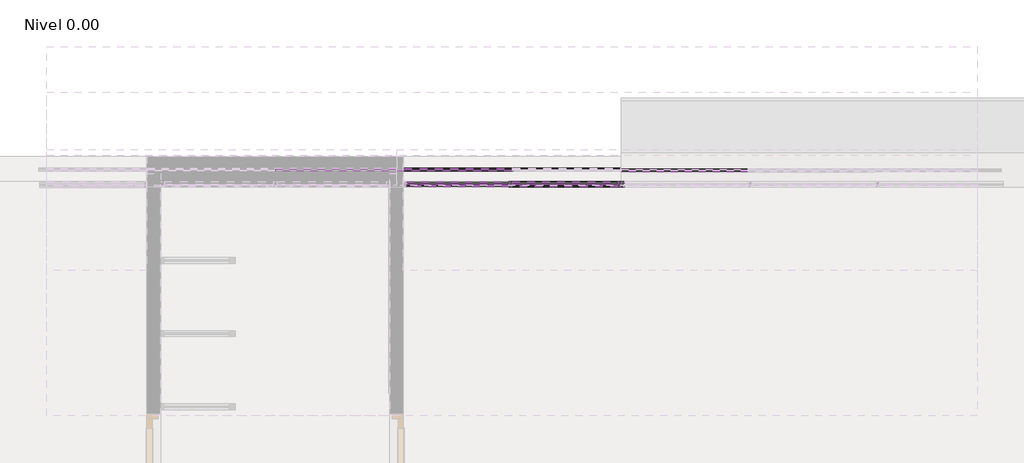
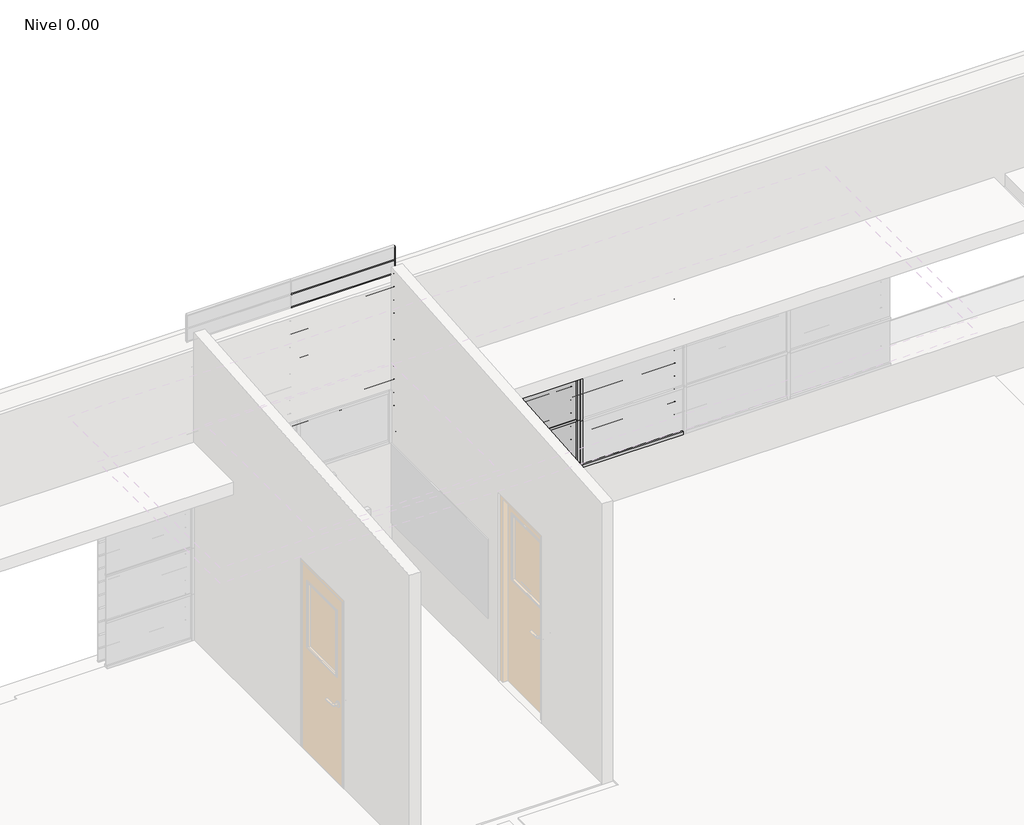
# One storey, part 16 of 27: 106 members, 28 plates.
"""IFC4 building model written with IfcOpenShell, lengths in millimetres."""

from ifc_helpers import new_model, si_unit, origin, place, context, project, spatial, transform, mapped, element, save
from components import circular_mullion_1dead5a5, circular_mullion_f540d6b4, circular_mullion_e1cfff8a, l_corner_mullion_285056ba, l_corner_mullion_de296168, rectangular_mullion_795f11c4, rectangular_mullion_4771c1cd, rectangular_mullion_fd73bc33, rectangular_mullion_435ed243, rectangular_mullion_cf28ff6b, rectangular_mullion_62a8ddbd, rectangular_mullion_f7ba8490, rectangular_mullion_80493510, rectangular_mullion_4732226b, rectangular_mullion_bccfeea3, rectangular_mullion_9fa35bb9, system_panel_7fb71679, system_panel_d60c91ae, system_panel_glazed_fd2ea701, system_panel_glazed_917149f2, system_panel_glazed_dea605e0, system_panel_glazed_2402f51b

model = new_model("IFC4")

# Units and contexts
model_context = context("Model", 3, world=origin())
ifc_project = project(units=[si_unit("LENGTHUNIT", "METRE", prefix="MILLI")], contexts=[model_context])

# Site, building, storey
site = spatial("IfcSite", under=ifc_project)
building = spatial("IfcBuilding", under=site)
storey = spatial("IfcBuildingStorey", under=building, Name="Nivel 0.00", Elevation=0.0)

# Members
placement = place(None, origin())
circular_mullion_shape = circular_mullion_1dead5a5(model_context)
element("IfcMember", 1, ObjectType="Circular Mullion : ARQ_HERR_16mm", at=placement, inside=storey, context=model_context, shape_type="MappedRepresentation", body=[
    mapped(circular_mullion_shape, transform((-7221.5692731, 6959.43912, 1650.0), x_axis=(0.0, 0.0, 1.0), y_axis=(0.0, -1.0, 0.0), z_axis=(1.0, 0.0, 0.0))),
])
element("IfcMember", 2, ObjectType="Circular Mullion : ARQ_HERR_16mm", at=placement, inside=storey, context=model_context, shape_type="MappedRepresentation", body=[
    mapped(circular_mullion_shape, transform((-7221.5692731, 6959.43912, 1800.0), x_axis=(0.0, 0.0, 1.0), y_axis=(0.0, -1.0, 0.0), z_axis=(1.0, 0.0, 0.0))),
])
element("IfcMember", 3, ObjectType="Circular Mullion : ARQ_HERR_16mm", at=placement, inside=storey, context=model_context, shape_type="MappedRepresentation", body=[
    mapped(circular_mullion_shape, transform((-7221.5692731, 6959.43912, 1950.0), x_axis=(0.0, 0.0, 1.0), y_axis=(0.0, -1.0, 0.0), z_axis=(1.0, 0.0, 0.0))),
])
element("IfcMember", 4, ObjectType="Circular Mullion : ARQ_HERR_16mm", at=placement, inside=storey, context=model_context, shape_type="MappedRepresentation", body=[
    mapped(circular_mullion_shape, transform((-7221.5692731, 6959.43912, 2100.0), x_axis=(0.0, 0.0, 1.0), y_axis=(0.0, -1.0, 0.0), z_axis=(1.0, 0.0, 0.0))),
])
element("IfcMember", 5, ObjectType="Circular Mullion : ARQ_HERR_16mm", at=placement, inside=storey, context=model_context, shape_type="MappedRepresentation", body=[
    mapped(circular_mullion_shape, transform((-7221.5692731, 6959.43912, 2250.0), x_axis=(0.0, 0.0, 1.0), y_axis=(0.0, -1.0, 0.0), z_axis=(1.0, 0.0, 0.0))),
])
element("IfcMember", 6, ObjectType="Circular Mullion : ARQ_HERR_16mm", at=placement, inside=storey, context=model_context, shape_type="MappedRepresentation", body=[
    mapped(circular_mullion_shape, transform((-7221.5692731, 6959.43912, 2400.0), x_axis=(0.0, 0.0, 1.0), y_axis=(0.0, -1.0, 0.0), z_axis=(1.0, 0.0, 0.0))),
])
element("IfcMember", 7, ObjectType="Circular Mullion : ARQ_HERR_16mm", at=placement, inside=storey, context=model_context, shape_type="MappedRepresentation", body=[
    mapped(circular_mullion_shape, transform((-7221.5692731, 6959.43912, 2550.0), x_axis=(0.0, 0.0, 1.0), y_axis=(0.0, -1.0, 0.0), z_axis=(1.0, 0.0, 0.0))),
])
element("IfcMember", 8, ObjectType="Circular Mullion : ARQ_HERR_16mm", at=placement, inside=storey, context=model_context, shape_type="MappedRepresentation", body=[
    mapped(circular_mullion_shape, transform((-7221.5692731, 6959.43912, 2700.0), x_axis=(0.0, 0.0, 1.0), y_axis=(0.0, -1.0, 0.0), z_axis=(1.0, 0.0, 0.0))),
])
element("IfcMember", 9, ObjectType="Circular Mullion : ARQ_HERR_16mm", at=placement, inside=storey, context=model_context, shape_type="MappedRepresentation", body=[
    mapped(circular_mullion_shape, transform((-7221.5692731, 6959.43912, 2850.0), x_axis=(0.0, 0.0, 1.0), y_axis=(0.0, -1.0, 0.0), z_axis=(1.0, 0.0, 0.0))),
])
element("IfcMember", 10, ObjectType="Circular Mullion : ARQ_HERR_16mm", at=placement, inside=storey, context=model_context, shape_type="MappedRepresentation", body=[
    mapped(circular_mullion_shape, transform((-7221.5692731, 6959.43912, 3000.0), x_axis=(0.0, 0.0, 1.0), y_axis=(0.0, -1.0, 0.0), z_axis=(1.0, 0.0, 0.0))),
])
element("IfcMember", 11, ObjectType="Circular Mullion : ARQ_HERR_16mm", at=placement, inside=storey, context=model_context, shape_type="MappedRepresentation", body=[
    mapped(circular_mullion_shape, transform((-7221.5692731, 6959.43912, 3150.0), x_axis=(0.0, 0.0, 1.0), y_axis=(0.0, -1.0, 0.0), z_axis=(1.0, 0.0, 0.0))),
])
element("IfcMember", 12, ObjectType="Circular Mullion : ARQ_HERR_16mm", at=placement, inside=storey, context=model_context, shape_type="MappedRepresentation", body=[
    mapped(circular_mullion_shape, transform((-7221.5692731, 6959.43912, 3300.0), x_axis=(0.0, 0.0, 1.0), y_axis=(0.0, -1.0, 0.0), z_axis=(1.0, 0.0, 0.0))),
])
element("IfcMember", 13, ObjectType="Circular Mullion : ARQ_HERR_16mm", at=placement, inside=storey, context=model_context, shape_type="MappedRepresentation", body=[
    mapped(circular_mullion_shape, transform((-7221.5692731, 6959.43912, 3450.0), x_axis=(0.0, 0.0, 1.0), y_axis=(0.0, -1.0, 0.0), z_axis=(1.0, 0.0, 0.0))),
])
circular_mullion_2_shape = circular_mullion_f540d6b4(model_context)
element("IfcMember", 14, ObjectType="Circular Mullion : ARQ_HERR_16mm", at=placement, inside=storey, context=model_context, shape_type="MappedRepresentation", body=[
    mapped(circular_mullion_2_shape, transform((-5309.2830591, 6959.4278548, 645.4545455), x_axis=(0.0, 0.0, 1.0), y_axis=(0.0, 1.0, 0.0), z_axis=(-1.0, 0.0, 0.0))),
])
element("IfcMember", 15, ObjectType="Circular Mullion : ARQ_HERR_16mm", at=placement, inside=storey, context=model_context, shape_type="MappedRepresentation", body=[
    mapped(circular_mullion_2_shape, transform((-5309.2830591, 6959.4278548, 790.9090909), x_axis=(0.0, 0.0, 1.0), y_axis=(0.0, 1.0, 0.0), z_axis=(-1.0, 0.0, 0.0))),
])
element("IfcMember", 16, ObjectType="Circular Mullion : ARQ_HERR_16mm", at=placement, inside=storey, context=model_context, shape_type="MappedRepresentation", body=[
    mapped(circular_mullion_2_shape, transform((-5309.2830591, 6959.4278548, 936.3636364), x_axis=(0.0, 0.0, 1.0), y_axis=(0.0, 1.0, 0.0), z_axis=(-1.0, 0.0, 0.0))),
])
element("IfcMember", 17, ObjectType="Circular Mullion : ARQ_HERR_16mm", at=placement, inside=storey, context=model_context, shape_type="MappedRepresentation", body=[
    mapped(circular_mullion_2_shape, transform((-5309.2830591, 6959.4278548, 1081.8181818), x_axis=(0.0, 0.0, 1.0), y_axis=(0.0, 1.0, 0.0), z_axis=(-1.0, 0.0, 0.0))),
])
element("IfcMember", 18, ObjectType="Circular Mullion : ARQ_HERR_16mm", at=placement, inside=storey, context=model_context, shape_type="MappedRepresentation", body=[
    mapped(circular_mullion_2_shape, transform((-5309.2830591, 6959.4278548, 1227.2727273), x_axis=(0.0, 0.0, 1.0), y_axis=(0.0, 1.0, 0.0), z_axis=(-1.0, 0.0, 0.0))),
])
element("IfcMember", 19, ObjectType="Circular Mullion : ARQ_HERR_16mm", at=placement, inside=storey, context=model_context, shape_type="MappedRepresentation", body=[
    mapped(circular_mullion_2_shape, transform((-5309.2830591, 6959.4278548, 1372.7272727), x_axis=(0.0, 0.0, 1.0), y_axis=(0.0, 1.0, 0.0), z_axis=(-1.0, 0.0, 0.0))),
])
element("IfcMember", 20, ObjectType="Circular Mullion : ARQ_HERR_16mm", at=placement, inside=storey, context=model_context, shape_type="MappedRepresentation", body=[
    mapped(circular_mullion_2_shape, transform((-5309.2830591, 6959.4278548, 1518.1818182), x_axis=(0.0, 0.0, 1.0), y_axis=(0.0, 1.0, 0.0), z_axis=(-1.0, 0.0, 0.0))),
])
element("IfcMember", 21, ObjectType="Circular Mullion : ARQ_HERR_16mm", at=placement, inside=storey, context=model_context, shape_type="MappedRepresentation", body=[
    mapped(circular_mullion_2_shape, transform((-5309.2830591, 6959.4278548, 1663.6363636), x_axis=(0.0, 0.0, 1.0), y_axis=(0.0, 1.0, 0.0), z_axis=(-1.0, 0.0, 0.0))),
])
element("IfcMember", 22, ObjectType="Circular Mullion : ARQ_HERR_16mm", at=placement, inside=storey, context=model_context, shape_type="MappedRepresentation", body=[
    mapped(circular_mullion_2_shape, transform((-5309.2830591, 6959.4278548, 1809.0909091), x_axis=(0.0, 0.0, 1.0), y_axis=(0.0, 1.0, 0.0), z_axis=(-1.0, 0.0, 0.0))),
])
element("IfcMember", 23, ObjectType="Circular Mullion : ARQ_HERR_16mm", at=placement, inside=storey, context=model_context, shape_type="MappedRepresentation", body=[
    mapped(circular_mullion_2_shape, transform((-5309.2830591, 6959.4278548, 1954.5454545), x_axis=(0.0, 0.0, 1.0), y_axis=(0.0, 1.0, 0.0), z_axis=(-1.0, 0.0, 0.0))),
])
circular_mullion_3_shape = circular_mullion_e1cfff8a(model_context)
element("IfcMember", 24, ObjectType="Circular Mullion : ARQ_HERR_16mm", at=placement, inside=storey, context=model_context, shape_type="MappedRepresentation", body=[
    mapped(circular_mullion_3_shape, transform((-6268.2830108, 6959.43912, 150.0), x_axis=(0.0, 0.0, 1.0), y_axis=(0.0, -1.0, 0.0), z_axis=(1.0, 0.0, 0.0))),
])
element("IfcMember", 25, ObjectType="Circular Mullion : ARQ_HERR_16mm", at=placement, inside=storey, context=model_context, shape_type="MappedRepresentation", body=[
    mapped(circular_mullion_3_shape, transform((-6268.2830108, 6959.43912, 300.0), x_axis=(0.0, 0.0, 1.0), y_axis=(0.0, -1.0, 0.0), z_axis=(1.0, 0.0, 0.0))),
])
element("IfcMember", 26, ObjectType="Circular Mullion : ARQ_HERR_16mm", at=placement, inside=storey, context=model_context, shape_type="MappedRepresentation", body=[
    mapped(circular_mullion_3_shape, transform((-6268.2830108, 6959.43912, 450.0), x_axis=(0.0, 0.0, 1.0), y_axis=(0.0, -1.0, 0.0), z_axis=(1.0, 0.0, 0.0))),
])
element("IfcMember", 27, ObjectType="Circular Mullion : ARQ_HERR_16mm", at=placement, inside=storey, context=model_context, shape_type="MappedRepresentation", body=[
    mapped(circular_mullion_3_shape, transform((-6268.2830108, 6959.43912, 600.0), x_axis=(0.0, 0.0, 1.0), y_axis=(0.0, -1.0, 0.0), z_axis=(1.0, 0.0, 0.0))),
])
element("IfcMember", 28, ObjectType="Circular Mullion : ARQ_HERR_16mm", at=placement, inside=storey, context=model_context, shape_type="MappedRepresentation", body=[
    mapped(circular_mullion_3_shape, transform((-6268.2830108, 6959.43912, 750.0), x_axis=(0.0, 0.0, 1.0), y_axis=(0.0, -1.0, 0.0), z_axis=(1.0, 0.0, 0.0))),
])
element("IfcMember", 29, ObjectType="Circular Mullion : ARQ_HERR_16mm", at=placement, inside=storey, context=model_context, shape_type="MappedRepresentation", body=[
    mapped(circular_mullion_3_shape, transform((-6268.2830108, 6959.43912, 900.0), x_axis=(0.0, 0.0, 1.0), y_axis=(0.0, -1.0, 0.0), z_axis=(1.0, 0.0, 0.0))),
])
element("IfcMember", 30, ObjectType="Circular Mullion : ARQ_HERR_16mm", at=placement, inside=storey, context=model_context, shape_type="MappedRepresentation", body=[
    mapped(circular_mullion_3_shape, transform((-6268.2830108, 6959.43912, 1050.0), x_axis=(0.0, 0.0, 1.0), y_axis=(0.0, -1.0, 0.0), z_axis=(1.0, 0.0, 0.0))),
])
element("IfcMember", 31, ObjectType="Circular Mullion : ARQ_HERR_16mm", at=placement, inside=storey, context=model_context, shape_type="MappedRepresentation", body=[
    mapped(circular_mullion_3_shape, transform((-6268.2830108, 6959.43912, 1200.0), x_axis=(0.0, 0.0, 1.0), y_axis=(0.0, -1.0, 0.0), z_axis=(1.0, 0.0, 0.0))),
])
element("IfcMember", 32, ObjectType="Circular Mullion : ARQ_HERR_16mm", at=placement, inside=storey, context=model_context, shape_type="MappedRepresentation", body=[
    mapped(circular_mullion_3_shape, transform((-6268.2830108, 6959.43912, 1350.0), x_axis=(0.0, 0.0, 1.0), y_axis=(0.0, -1.0, 0.0), z_axis=(1.0, 0.0, 0.0))),
])
element("IfcMember", 33, ObjectType="Circular Mullion : ARQ_HERR_16mm", at=placement, inside=storey, context=model_context, shape_type="MappedRepresentation", body=[
    mapped(circular_mullion_3_shape, transform((-6268.2830108, 6959.43912, 1500.0), x_axis=(0.0, 0.0, 1.0), y_axis=(0.0, -1.0, 0.0), z_axis=(1.0, 0.0, 0.0))),
])
element("IfcMember", 34, ObjectType="Circular Mullion : ARQ_HERR_16mm", at=placement, inside=storey, context=model_context, shape_type="MappedRepresentation", body=[
    mapped(circular_mullion_3_shape, transform((-6268.2830108, 6959.43912, 1650.0), x_axis=(0.0, 0.0, 1.0), y_axis=(0.0, -1.0, 0.0), z_axis=(1.0, 0.0, 0.0))),
])
element("IfcMember", 35, ObjectType="Circular Mullion : ARQ_HERR_16mm", at=placement, inside=storey, context=model_context, shape_type="MappedRepresentation", body=[
    mapped(circular_mullion_3_shape, transform((-6268.2830108, 6959.43912, 1800.0), x_axis=(0.0, 0.0, 1.0), y_axis=(0.0, -1.0, 0.0), z_axis=(1.0, 0.0, 0.0))),
])
element("IfcMember", 36, ObjectType="Circular Mullion : ARQ_HERR_16mm", at=placement, inside=storey, context=model_context, shape_type="MappedRepresentation", body=[
    mapped(circular_mullion_3_shape, transform((-6268.2830108, 6959.43912, 1950.0), x_axis=(0.0, 0.0, 1.0), y_axis=(0.0, -1.0, 0.0), z_axis=(1.0, 0.0, 0.0))),
])
l_corner_mullion_shape = l_corner_mullion_285056ba(model_context)
element("IfcMember", 37, ObjectType="L Corner Mullion : ARQ_HERR_15X6mm", at=placement, inside=storey, context=model_context, shape_type="MappedRepresentation", body=[
    mapped(l_corner_mullion_shape, transform((-5309.2830591, 6959.4278548, 2100.0), x_axis=(0.0, 0.0, 1.0), y_axis=(0.0, 1.0, 0.0), z_axis=(-1.0, 0.0, 0.0))),
])
l_corner_mullion_2_shape = l_corner_mullion_de296168(model_context)
element("IfcMember", 38, ObjectType="L Corner Mullion : ARQ_HERR_15X6mm", at=placement, inside=storey, context=model_context, shape_type="MappedRepresentation", body=[
    mapped(l_corner_mullion_2_shape, transform((-6268.2830108, 6959.43912, 2100.0), x_axis=(0.0, 0.0, 1.0), y_axis=(0.0, -1.0, 0.0), z_axis=(1.0, 0.0, 0.0))),
])
element("IfcMember", 39, ObjectType="L Corner Mullion : ARQ_HERR_15X6mm", at=placement, inside=storey, context=model_context, shape_type="MappedRepresentation", body=[
    mapped(l_corner_mullion_2_shape, transform((-7209.2388409, 6959.43912, 0.0), x_axis=(0.0, 0.0, -1.0), y_axis=(0.0, -1.0, 0.0), z_axis=(-1.0, 0.0, 0.0))),
])
element("IfcMember", 40, ObjectType="L Corner Mullion : ARQ_HERR_15X6mm", at=placement, inside=storey, context=model_context, shape_type="MappedRepresentation", body=[
    mapped(l_corner_mullion_2_shape, transform((-6262.2830108, 6959.43912, 0.0), x_axis=(0.0, 0.0, -1.0), y_axis=(0.0, -1.0, 0.0), z_axis=(-1.0, 0.0, 0.0))),
])
rectangular_mullion_shape = rectangular_mullion_795f11c4(model_context)
element("IfcMember", 41, ObjectType="Rectangular Mullion : ARQ_TV_MULL_50x30mm", at=placement, inside=storey, context=model_context, shape_type="MappedRepresentation", body=[
    mapped(rectangular_mullion_shape, transform((-5345.2830591, 6834.439065, 2100.0), x_axis=(0.0, 0.0, 1.0), y_axis=(0.0, -1.0, 0.0), z_axis=(1.0, 0.0, 0.0))),
])
rectangular_mullion_2_shape = rectangular_mullion_4771c1cd(model_context)
element("IfcMember", 42, ObjectType="Rectangular Mullion : ARQ_TV_MULL_50x30mm", at=placement, inside=storey, context=model_context, shape_type="MappedRepresentation", body=[
    mapped(rectangular_mullion_2_shape, transform((-6295.4261661, 6834.439065, 2100.0), x_axis=(0.0, 0.0, 1.0), y_axis=(0.0, -1.0, 0.0), z_axis=(1.0, 0.0, 0.0))),
])
element("IfcMember", 43, ObjectType="Rectangular Mullion : ARQ_TV_MULL_50x30mm", at=placement, inside=storey, context=model_context, shape_type="MappedRepresentation", body=[
    mapped(rectangular_mullion_shape, transform((-6265.4261661, 6834.439065, 0.0), x_axis=(0.0, 0.0, -1.0), y_axis=(0.0, -1.0, 0.0), z_axis=(-1.0, 0.0, 0.0))),
])
rectangular_mullion_3_shape = rectangular_mullion_fd73bc33(model_context)
element("IfcMember", 44, ObjectType="Rectangular Mullion : ARQ_TV_MULL_50x30mm", at=placement, inside=storey, context=model_context, shape_type="MappedRepresentation", body=[
    mapped(rectangular_mullion_3_shape, transform((-6280.4261661, 6834.439065, 0.0), x_axis=(1.0, 0.0, 0.0), y_axis=(0.0, -1.0, 0.0), z_axis=(0.0, 0.0, -1.0))),
])
element("IfcMember", 45, ObjectType="Rectangular Mullion : ARQ_TV_MULL_50x30mm", at=placement, inside=storey, context=model_context, shape_type="MappedRepresentation", body=[
    mapped(rectangular_mullion_3_shape, transform((-6280.4261661, 6834.439065, 525.0), x_axis=(1.0, 0.0, 0.0), y_axis=(0.0, -1.0, 0.0), z_axis=(0.0, 0.0, -1.0))),
])
element("IfcMember", 46, ObjectType="Rectangular Mullion : ARQ_TV_MULL_50x30mm", at=placement, inside=storey, context=model_context, shape_type="MappedRepresentation", body=[
    mapped(rectangular_mullion_3_shape, transform((-6280.4261661, 6834.439065, 1050.0), x_axis=(1.0, 0.0, 0.0), y_axis=(0.0, -1.0, 0.0), z_axis=(0.0, 0.0, -1.0))),
])
element("IfcMember", 47, ObjectType="Rectangular Mullion : ARQ_TV_MULL_50x30mm", at=placement, inside=storey, context=model_context, shape_type="MappedRepresentation", body=[
    mapped(rectangular_mullion_3_shape, transform((-6280.4261661, 6834.439065, 1575.0), x_axis=(1.0, 0.0, 0.0), y_axis=(0.0, -1.0, 0.0), z_axis=(0.0, 0.0, -1.0))),
])
rectangular_mullion_4_shape = rectangular_mullion_435ed243(model_context)
element("IfcMember", 48, ObjectType="Rectangular Mullion : ARQ_TV_MULL_30x20mm", at=placement, inside=storey, context=model_context, shape_type="MappedRepresentation", body=[
    mapped(rectangular_mullion_4_shape, transform((-6295.4261661, 6834.439065, 525.0), x_axis=(0.0, 0.0, 1.0), y_axis=(0.0, -1.0, 0.0), z_axis=(1.0, 0.0, 0.0))),
])
element("IfcMember", 49, ObjectType="Rectangular Mullion : ARQ_TV_MULL_30x20mm", at=placement, inside=storey, context=model_context, shape_type="MappedRepresentation", body=[
    mapped(rectangular_mullion_4_shape, transform((-6295.4261661, 6834.439065, 1050.0), x_axis=(0.0, 0.0, 1.0), y_axis=(0.0, -1.0, 0.0), z_axis=(1.0, 0.0, 0.0))),
])
element("IfcMember", 50, ObjectType="Rectangular Mullion : ARQ_TV_MULL_30x20mm", at=placement, inside=storey, context=model_context, shape_type="MappedRepresentation", body=[
    mapped(rectangular_mullion_4_shape, transform((-6295.4261661, 6834.439065, 1575.0), x_axis=(0.0, 0.0, 1.0), y_axis=(0.0, -1.0, 0.0), z_axis=(1.0, 0.0, 0.0))),
])
rectangular_mullion_5_shape = rectangular_mullion_cf28ff6b(model_context)
element("IfcMember", 51, ObjectType="Rectangular Mullion : ARQ_TV_MULL_30x20mm", at=placement, inside=storey, context=model_context, shape_type="MappedRepresentation", body=[
    mapped(rectangular_mullion_5_shape, transform((-5345.2830591, 6834.439065, 525.0), x_axis=(0.0, 0.0, 1.0), y_axis=(0.0, -1.0, 0.0), z_axis=(1.0, 0.0, 0.0))),
])
element("IfcMember", 52, ObjectType="Rectangular Mullion : ARQ_TV_MULL_30x20mm", at=placement, inside=storey, context=model_context, shape_type="MappedRepresentation", body=[
    mapped(rectangular_mullion_5_shape, transform((-5345.2830591, 6834.439065, 1050.0), x_axis=(0.0, 0.0, 1.0), y_axis=(0.0, -1.0, 0.0), z_axis=(1.0, 0.0, 0.0))),
])
element("IfcMember", 53, ObjectType="Rectangular Mullion : ARQ_TV_MULL_30x20mm", at=placement, inside=storey, context=model_context, shape_type="MappedRepresentation", body=[
    mapped(rectangular_mullion_5_shape, transform((-5345.2830591, 6834.439065, 1575.0), x_axis=(0.0, 0.0, 1.0), y_axis=(0.0, -1.0, 0.0), z_axis=(1.0, 0.0, 0.0))),
])
rectangular_mullion_6_shape = rectangular_mullion_62a8ddbd(model_context)
element("IfcMember", 54, ObjectType="Rectangular Mullion : ARQ_TV_MULL_50x30mm", at=placement, inside=storey, context=model_context, shape_type="MappedRepresentation", body=[
    mapped(rectangular_mullion_6_shape, transform((-5315.2830591, 6834.439065, 0.0), x_axis=(1.0, 0.0, 0.0), y_axis=(0.0, -1.0, 0.0), z_axis=(0.0, 0.0, -1.0))),
])
element("IfcMember", 55, ObjectType="Rectangular Mullion : ARQ_TV_MULL_50x30mm", at=placement, inside=storey, context=model_context, shape_type="MappedRepresentation", body=[
    mapped(rectangular_mullion_6_shape, transform((-5315.2830591, 6834.439065, 525.0), x_axis=(1.0, 0.0, 0.0), y_axis=(0.0, -1.0, 0.0), z_axis=(0.0, 0.0, -1.0))),
])
element("IfcMember", 56, ObjectType="Rectangular Mullion : ARQ_TV_MULL_50x30mm", at=placement, inside=storey, context=model_context, shape_type="MappedRepresentation", body=[
    mapped(rectangular_mullion_6_shape, transform((-5315.2830591, 6834.439065, 1050.0), x_axis=(1.0, 0.0, 0.0), y_axis=(0.0, -1.0, 0.0), z_axis=(0.0, 0.0, -1.0))),
])
element("IfcMember", 57, ObjectType="Rectangular Mullion : ARQ_TV_MULL_50x30mm", at=placement, inside=storey, context=model_context, shape_type="MappedRepresentation", body=[
    mapped(rectangular_mullion_6_shape, transform((-5315.2830591, 6834.439065, 1575.0), x_axis=(1.0, 0.0, 0.0), y_axis=(0.0, -1.0, 0.0), z_axis=(0.0, 0.0, -1.0))),
])
rectangular_mullion_7_shape = rectangular_mullion_f7ba8490(model_context)
element("IfcMember", 58, ObjectType="Rectangular Mullion : ARQ_TV_MULL_50x30mm", at=placement, inside=storey, context=model_context, shape_type="MappedRepresentation", body=[
    mapped(rectangular_mullion_7_shape, transform((-5315.2830591, 6834.439065, 2100.0), x_axis=(-1.0, 0.0, 0.0), y_axis=(0.0, -1.0, 0.0), z_axis=(0.0, 0.0, 1.0))),
])
element("IfcMember", 59, ObjectType="Rectangular Mullion : ARQ_TV_MULL_50x30mm", at=placement, inside=storey, context=model_context, shape_type="MappedRepresentation", body=[
    mapped(rectangular_mullion_7_shape, transform((-5315.2830591, 6834.439065, 1033.3333333), x_axis=(-1.0, 0.0, 0.0), y_axis=(0.0, -1.0, 0.0), z_axis=(0.0, 0.0, 1.0))),
])
element("IfcMember", 60, ObjectType="Rectangular Mullion : ARQ_TV_MULL_50x30mm", at=placement, inside=storey, context=model_context, shape_type="MappedRepresentation", body=[
    mapped(rectangular_mullion_7_shape, transform((-5315.2830591, 6834.439065, 1566.6666667), x_axis=(-1.0, 0.0, 0.0), y_axis=(0.0, -1.0, 0.0), z_axis=(0.0, 0.0, 1.0))),
])
rectangular_mullion_8_shape = rectangular_mullion_80493510(model_context)
element("IfcMember", 61, ObjectType="Rectangular Mullion : ARQ_TV_MULL_50x30mm", at=placement, inside=storey, context=model_context, shape_type="MappedRepresentation", body=[
    mapped(rectangular_mullion_8_shape, transform((-5285.2830591, 6834.439065, 500.0), x_axis=(0.0, 0.0, -1.0), y_axis=(0.0, -1.0, 0.0), z_axis=(-1.0, 0.0, 0.0))),
])
rectangular_mullion_9_shape = rectangular_mullion_4732226b(model_context)
element("IfcMember", 62, ObjectType="Rectangular Mullion : ARQ_HERR_15X6mm", at=placement, inside=storey, context=model_context, shape_type="MappedRepresentation", body=[
    mapped(rectangular_mullion_9_shape, transform((-6265.2830108, 6959.43912, 0.0), x_axis=(1.0, 0.0, 0.0), y_axis=(0.0, -1.0, 0.0), z_axis=(0.0, 0.0, -1.0))),
])
element("IfcMember", 63, ObjectType="Rectangular Mullion : ARQ_HERR_15X6mm", at=placement, inside=storey, context=model_context, shape_type="MappedRepresentation", body=[
    mapped(rectangular_mullion_9_shape, transform((-6265.2830108, 6959.43912, 150.0), x_axis=(1.0, 0.0, 0.0), y_axis=(0.0, -1.0, 0.0), z_axis=(0.0, 0.0, -1.0))),
])
element("IfcMember", 64, ObjectType="Rectangular Mullion : ARQ_HERR_15X6mm", at=placement, inside=storey, context=model_context, shape_type="MappedRepresentation", body=[
    mapped(rectangular_mullion_9_shape, transform((-6265.2830108, 6959.43912, 300.0), x_axis=(1.0, 0.0, 0.0), y_axis=(0.0, -1.0, 0.0), z_axis=(0.0, 0.0, -1.0))),
])
element("IfcMember", 65, ObjectType="Rectangular Mullion : ARQ_HERR_15X6mm", at=placement, inside=storey, context=model_context, shape_type="MappedRepresentation", body=[
    mapped(rectangular_mullion_9_shape, transform((-6265.2830108, 6959.43912, 450.0), x_axis=(1.0, 0.0, 0.0), y_axis=(0.0, -1.0, 0.0), z_axis=(0.0, 0.0, -1.0))),
])
element("IfcMember", 66, ObjectType="Rectangular Mullion : ARQ_HERR_15X6mm", at=placement, inside=storey, context=model_context, shape_type="MappedRepresentation", body=[
    mapped(rectangular_mullion_9_shape, transform((-6265.2830108, 6959.43912, 600.0), x_axis=(1.0, 0.0, 0.0), y_axis=(0.0, -1.0, 0.0), z_axis=(0.0, 0.0, -1.0))),
])
element("IfcMember", 67, ObjectType="Rectangular Mullion : ARQ_HERR_15X6mm", at=placement, inside=storey, context=model_context, shape_type="MappedRepresentation", body=[
    mapped(rectangular_mullion_9_shape, transform((-6265.2830108, 6959.43912, 750.0), x_axis=(1.0, 0.0, 0.0), y_axis=(0.0, -1.0, 0.0), z_axis=(0.0, 0.0, -1.0))),
])
element("IfcMember", 68, ObjectType="Rectangular Mullion : ARQ_HERR_15X6mm", at=placement, inside=storey, context=model_context, shape_type="MappedRepresentation", body=[
    mapped(rectangular_mullion_9_shape, transform((-6265.2830108, 6959.43912, 900.0), x_axis=(1.0, 0.0, 0.0), y_axis=(0.0, -1.0, 0.0), z_axis=(0.0, 0.0, -1.0))),
])
element("IfcMember", 69, ObjectType="Rectangular Mullion : ARQ_HERR_15X6mm", at=placement, inside=storey, context=model_context, shape_type="MappedRepresentation", body=[
    mapped(rectangular_mullion_9_shape, transform((-6265.2830108, 6959.43912, 1050.0), x_axis=(1.0, 0.0, 0.0), y_axis=(0.0, -1.0, 0.0), z_axis=(0.0, 0.0, -1.0))),
])
element("IfcMember", 70, ObjectType="Rectangular Mullion : ARQ_HERR_15X6mm", at=placement, inside=storey, context=model_context, shape_type="MappedRepresentation", body=[
    mapped(rectangular_mullion_9_shape, transform((-6265.2830108, 6959.43912, 1200.0), x_axis=(1.0, 0.0, 0.0), y_axis=(0.0, -1.0, 0.0), z_axis=(0.0, 0.0, -1.0))),
])
element("IfcMember", 71, ObjectType="Rectangular Mullion : ARQ_HERR_15X6mm", at=placement, inside=storey, context=model_context, shape_type="MappedRepresentation", body=[
    mapped(rectangular_mullion_9_shape, transform((-6265.2830108, 6959.43912, 1350.0), x_axis=(1.0, 0.0, 0.0), y_axis=(0.0, -1.0, 0.0), z_axis=(0.0, 0.0, -1.0))),
])
element("IfcMember", 72, ObjectType="Rectangular Mullion : ARQ_HERR_15X6mm", at=placement, inside=storey, context=model_context, shape_type="MappedRepresentation", body=[
    mapped(rectangular_mullion_9_shape, transform((-6265.2830108, 6959.43912, 1500.0), x_axis=(1.0, 0.0, 0.0), y_axis=(0.0, -1.0, 0.0), z_axis=(0.0, 0.0, -1.0))),
])
element("IfcMember", 73, ObjectType="Rectangular Mullion : ARQ_HERR_15X6mm", at=placement, inside=storey, context=model_context, shape_type="MappedRepresentation", body=[
    mapped(rectangular_mullion_9_shape, transform((-6265.2830108, 6959.43912, 1650.0), x_axis=(1.0, 0.0, 0.0), y_axis=(0.0, -1.0, 0.0), z_axis=(0.0, 0.0, -1.0))),
])
element("IfcMember", 74, ObjectType="Rectangular Mullion : ARQ_HERR_15X6mm", at=placement, inside=storey, context=model_context, shape_type="MappedRepresentation", body=[
    mapped(rectangular_mullion_9_shape, transform((-6265.2830108, 6959.43912, 1800.0), x_axis=(1.0, 0.0, 0.0), y_axis=(0.0, -1.0, 0.0), z_axis=(0.0, 0.0, -1.0))),
])
rectangular_mullion_10_shape = rectangular_mullion_bccfeea3(model_context)
element("IfcMember", 75, ObjectType="Rectangular Mullion : ARQ_HERR_15X6mm", at=placement, inside=storey, context=model_context, shape_type="MappedRepresentation", body=[
    mapped(rectangular_mullion_10_shape, transform((-7215.5692731, 6959.43912, 2700.0), x_axis=(1.0, 0.0, 0.0), y_axis=(0.0, -1.0, 0.0), z_axis=(0.0, 0.0, -1.0))),
])
element("IfcMember", 76, ObjectType="Rectangular Mullion : ARQ_HERR_15X6mm", at=placement, inside=storey, context=model_context, shape_type="MappedRepresentation", body=[
    mapped(rectangular_mullion_10_shape, transform((-7215.5692731, 6959.43912, 2850.0), x_axis=(1.0, 0.0, 0.0), y_axis=(0.0, -1.0, 0.0), z_axis=(0.0, 0.0, -1.0))),
])
element("IfcMember", 77, ObjectType="Rectangular Mullion : ARQ_HERR_15X6mm", at=placement, inside=storey, context=model_context, shape_type="MappedRepresentation", body=[
    mapped(rectangular_mullion_10_shape, transform((-7215.5692731, 6959.43912, 3000.0), x_axis=(1.0, 0.0, 0.0), y_axis=(0.0, -1.0, 0.0), z_axis=(0.0, 0.0, -1.0))),
])
element("IfcMember", 78, ObjectType="Rectangular Mullion : ARQ_HERR_15X6mm", at=placement, inside=storey, context=model_context, shape_type="MappedRepresentation", body=[
    mapped(rectangular_mullion_10_shape, transform((-7215.5692731, 6959.43912, 3150.0), x_axis=(1.0, 0.0, 0.0), y_axis=(0.0, -1.0, 0.0), z_axis=(0.0, 0.0, -1.0))),
])
element("IfcMember", 79, ObjectType="Rectangular Mullion : ARQ_HERR_15X6mm", at=placement, inside=storey, context=model_context, shape_type="MappedRepresentation", body=[
    mapped(rectangular_mullion_10_shape, transform((-7215.5692731, 6959.43912, 3300.0), x_axis=(1.0, 0.0, 0.0), y_axis=(0.0, -1.0, 0.0), z_axis=(0.0, 0.0, -1.0))),
])
element("IfcMember", 80, ObjectType="Rectangular Mullion : ARQ_HERR_15X6mm", at=placement, inside=storey, context=model_context, shape_type="MappedRepresentation", body=[
    mapped(rectangular_mullion_10_shape, transform((-7215.2388409, 6959.43912, 150.0), x_axis=(-1.0, 0.0, 0.0), y_axis=(0.0, -1.0, 0.0), z_axis=(0.0, 0.0, 1.0))),
])
element("IfcMember", 81, ObjectType="Rectangular Mullion : ARQ_HERR_15X6mm", at=placement, inside=storey, context=model_context, shape_type="MappedRepresentation", body=[
    mapped(rectangular_mullion_10_shape, transform((-7215.2388409, 6959.43912, 300.0), x_axis=(-1.0, 0.0, 0.0), y_axis=(0.0, -1.0, 0.0), z_axis=(0.0, 0.0, 1.0))),
])
element("IfcMember", 82, ObjectType="Rectangular Mullion : ARQ_HERR_15X6mm", at=placement, inside=storey, context=model_context, shape_type="MappedRepresentation", body=[
    mapped(rectangular_mullion_10_shape, transform((-7215.2388409, 6959.43912, 450.0), x_axis=(-1.0, 0.0, 0.0), y_axis=(0.0, -1.0, 0.0), z_axis=(0.0, 0.0, 1.0))),
])
element("IfcMember", 83, ObjectType="Rectangular Mullion : ARQ_HERR_15X6mm", at=placement, inside=storey, context=model_context, shape_type="MappedRepresentation", body=[
    mapped(rectangular_mullion_10_shape, transform((-7215.2388409, 6959.43912, 600.0), x_axis=(-1.0, 0.0, 0.0), y_axis=(0.0, -1.0, 0.0), z_axis=(0.0, 0.0, 1.0))),
])
element("IfcMember", 84, ObjectType="Rectangular Mullion : ARQ_HERR_15X6mm", at=placement, inside=storey, context=model_context, shape_type="MappedRepresentation", body=[
    mapped(rectangular_mullion_10_shape, transform((-7215.2388409, 6959.43912, 750.0), x_axis=(-1.0, 0.0, 0.0), y_axis=(0.0, -1.0, 0.0), z_axis=(0.0, 0.0, 1.0))),
])
element("IfcMember", 85, ObjectType="Rectangular Mullion : ARQ_HERR_15X6mm", at=placement, inside=storey, context=model_context, shape_type="MappedRepresentation", body=[
    mapped(rectangular_mullion_10_shape, transform((-7215.2388409, 6959.43912, 900.0), x_axis=(-1.0, 0.0, 0.0), y_axis=(0.0, -1.0, 0.0), z_axis=(0.0, 0.0, 1.0))),
])
element("IfcMember", 86, ObjectType="Rectangular Mullion : ARQ_HERR_15X6mm", at=placement, inside=storey, context=model_context, shape_type="MappedRepresentation", body=[
    mapped(rectangular_mullion_10_shape, transform((-7215.2388409, 6959.43912, 1050.0), x_axis=(-1.0, 0.0, 0.0), y_axis=(0.0, -1.0, 0.0), z_axis=(0.0, 0.0, 1.0))),
])
element("IfcMember", 87, ObjectType="Rectangular Mullion : ARQ_HERR_15X6mm", at=placement, inside=storey, context=model_context, shape_type="MappedRepresentation", body=[
    mapped(rectangular_mullion_10_shape, transform((-7215.2388409, 6959.43912, 1200.0), x_axis=(-1.0, 0.0, 0.0), y_axis=(0.0, -1.0, 0.0), z_axis=(0.0, 0.0, 1.0))),
])
element("IfcMember", 88, ObjectType="Rectangular Mullion : ARQ_HERR_15X6mm", at=placement, inside=storey, context=model_context, shape_type="MappedRepresentation", body=[
    mapped(rectangular_mullion_10_shape, transform((-7215.2388409, 6959.43912, 1350.0), x_axis=(-1.0, 0.0, 0.0), y_axis=(0.0, -1.0, 0.0), z_axis=(0.0, 0.0, 1.0))),
])
element("IfcMember", 89, ObjectType="Rectangular Mullion : ARQ_HERR_15X6mm", at=placement, inside=storey, context=model_context, shape_type="MappedRepresentation", body=[
    mapped(rectangular_mullion_10_shape, transform((-7215.2388409, 6959.43912, 1500.0), x_axis=(-1.0, 0.0, 0.0), y_axis=(0.0, -1.0, 0.0), z_axis=(0.0, 0.0, 1.0))),
])
element("IfcMember", 90, ObjectType="Rectangular Mullion : ARQ_HERR_15X6mm", at=placement, inside=storey, context=model_context, shape_type="MappedRepresentation", body=[
    mapped(rectangular_mullion_10_shape, transform((-7215.2388409, 6959.43912, 1650.0), x_axis=(-1.0, 0.0, 0.0), y_axis=(0.0, -1.0, 0.0), z_axis=(0.0, 0.0, 1.0))),
])
element("IfcMember", 91, ObjectType="Rectangular Mullion : ARQ_HERR_15X6mm", at=placement, inside=storey, context=model_context, shape_type="MappedRepresentation", body=[
    mapped(rectangular_mullion_10_shape, transform((-7215.2388409, 6959.43912, 1800.0), x_axis=(-1.0, 0.0, 0.0), y_axis=(0.0, -1.0, 0.0), z_axis=(0.0, 0.0, 1.0))),
])
element("IfcMember", 92, ObjectType="Rectangular Mullion : ARQ_HERR_15X6mm", at=placement, inside=storey, context=model_context, shape_type="MappedRepresentation", body=[
    mapped(rectangular_mullion_10_shape, transform((-7215.2388409, 6959.43912, 1950.0), x_axis=(-1.0, 0.0, 0.0), y_axis=(0.0, -1.0, 0.0), z_axis=(0.0, 0.0, 1.0))),
])
element("IfcMember", 93, ObjectType="Rectangular Mullion : ARQ_HERR_15X6mm", at=placement, inside=storey, context=model_context, shape_type="MappedRepresentation", body=[
    mapped(rectangular_mullion_9_shape, transform((-6265.2830108, 6959.43912, 1950.0), x_axis=(1.0, 0.0, 0.0), y_axis=(0.0, -1.0, 0.0), z_axis=(0.0, 0.0, -1.0))),
])
element("IfcMember", 94, ObjectType="Rectangular Mullion : ARQ_HERR_15X6mm", at=placement, inside=storey, context=model_context, shape_type="MappedRepresentation", body=[
    mapped(rectangular_mullion_10_shape, transform((-7215.2388409, 6959.43912, 2100.0), x_axis=(-1.0, 0.0, 0.0), y_axis=(0.0, -1.0, 0.0), z_axis=(0.0, 0.0, 1.0))),
])
element("IfcMember", 95, ObjectType="Rectangular Mullion : ARQ_HERR_15X6mm", at=placement, inside=storey, context=model_context, shape_type="MappedRepresentation", body=[
    mapped(rectangular_mullion_10_shape, transform((-7215.5692731, 6959.43912, 3450.0), x_axis=(1.0, 0.0, 0.0), y_axis=(0.0, -1.0, 0.0), z_axis=(0.0, 0.0, -1.0))),
])
rectangular_mullion_11_shape = rectangular_mullion_9fa35bb9(model_context)
element("IfcMember", 96, ObjectType="Rectangular Mullion : ARQ_HERR_15X6mm", at=placement, inside=storey, context=model_context, shape_type="MappedRepresentation", body=[
    mapped(rectangular_mullion_11_shape, transform((-5315.2830591, 6959.4278548, 500.0), x_axis=(-1.0, 0.0, 0.0), y_axis=(0.0, 1.0, 0.0), z_axis=(0.0, 0.0, -1.0))),
])
element("IfcMember", 97, ObjectType="Rectangular Mullion : ARQ_HERR_15X6mm", at=placement, inside=storey, context=model_context, shape_type="MappedRepresentation", body=[
    mapped(rectangular_mullion_11_shape, transform((-5315.2830591, 6959.4278548, 645.4545455), x_axis=(-1.0, 0.0, 0.0), y_axis=(0.0, 1.0, 0.0), z_axis=(0.0, 0.0, -1.0))),
])
element("IfcMember", 98, ObjectType="Rectangular Mullion : ARQ_HERR_15X6mm", at=placement, inside=storey, context=model_context, shape_type="MappedRepresentation", body=[
    mapped(rectangular_mullion_11_shape, transform((-5315.2830591, 6959.4278548, 790.9090909), x_axis=(-1.0, 0.0, 0.0), y_axis=(0.0, 1.0, 0.0), z_axis=(0.0, 0.0, -1.0))),
])
element("IfcMember", 99, ObjectType="Rectangular Mullion : ARQ_HERR_15X6mm", at=placement, inside=storey, context=model_context, shape_type="MappedRepresentation", body=[
    mapped(rectangular_mullion_11_shape, transform((-5315.2830591, 6959.4278548, 936.3636364), x_axis=(-1.0, 0.0, 0.0), y_axis=(0.0, 1.0, 0.0), z_axis=(0.0, 0.0, -1.0))),
])
element("IfcMember", 100, ObjectType="Rectangular Mullion : ARQ_HERR_15X6mm", at=placement, inside=storey, context=model_context, shape_type="MappedRepresentation", body=[
    mapped(rectangular_mullion_11_shape, transform((-5315.2830591, 6959.4278548, 1081.8181818), x_axis=(-1.0, 0.0, 0.0), y_axis=(0.0, 1.0, 0.0), z_axis=(0.0, 0.0, -1.0))),
])
element("IfcMember", 101, ObjectType="Rectangular Mullion : ARQ_HERR_15X6mm", at=placement, inside=storey, context=model_context, shape_type="MappedRepresentation", body=[
    mapped(rectangular_mullion_11_shape, transform((-5315.2830591, 6959.4278548, 1227.2727273), x_axis=(-1.0, 0.0, 0.0), y_axis=(0.0, 1.0, 0.0), z_axis=(0.0, 0.0, -1.0))),
])
element("IfcMember", 102, ObjectType="Rectangular Mullion : ARQ_HERR_15X6mm", at=placement, inside=storey, context=model_context, shape_type="MappedRepresentation", body=[
    mapped(rectangular_mullion_11_shape, transform((-5315.2830591, 6959.4278548, 1372.7272727), x_axis=(-1.0, 0.0, 0.0), y_axis=(0.0, 1.0, 0.0), z_axis=(0.0, 0.0, -1.0))),
])
element("IfcMember", 103, ObjectType="Rectangular Mullion : ARQ_HERR_15X6mm", at=placement, inside=storey, context=model_context, shape_type="MappedRepresentation", body=[
    mapped(rectangular_mullion_11_shape, transform((-5315.2830591, 6959.4278548, 1518.1818182), x_axis=(-1.0, 0.0, 0.0), y_axis=(0.0, 1.0, 0.0), z_axis=(0.0, 0.0, -1.0))),
])
element("IfcMember", 104, ObjectType="Rectangular Mullion : ARQ_HERR_15X6mm", at=placement, inside=storey, context=model_context, shape_type="MappedRepresentation", body=[
    mapped(rectangular_mullion_11_shape, transform((-5315.2830591, 6959.4278548, 1663.6363636), x_axis=(-1.0, 0.0, 0.0), y_axis=(0.0, 1.0, 0.0), z_axis=(0.0, 0.0, -1.0))),
])
element("IfcMember", 105, ObjectType="Rectangular Mullion : ARQ_HERR_15X6mm", at=placement, inside=storey, context=model_context, shape_type="MappedRepresentation", body=[
    mapped(rectangular_mullion_11_shape, transform((-5315.2830591, 6959.4278548, 1809.0909091), x_axis=(-1.0, 0.0, 0.0), y_axis=(0.0, 1.0, 0.0), z_axis=(0.0, 0.0, -1.0))),
])
element("IfcMember", 106, ObjectType="Rectangular Mullion : ARQ_HERR_15X6mm", at=placement, inside=storey, context=model_context, shape_type="MappedRepresentation", body=[
    mapped(rectangular_mullion_11_shape, transform((-5315.2830591, 6959.4278548, 1954.5454545), x_axis=(-1.0, 0.0, 0.0), y_axis=(0.0, 1.0, 0.0), z_axis=(0.0, 0.0, -1.0))),
])

# Plates
system_panel_shape = system_panel_7fb71679(model_context)
element("IfcPlate", 107, ObjectType="System Panel : VACÍO", at=placement, inside=storey, context=model_context, shape_type="MappedRepresentation", body=[
    mapped(system_panel_shape, transform((-6738.7609259, 6959.43912, 6.0), x_axis=(1.0, 0.0, 0.0), y_axis=(0.0, 1.0, 0.0), z_axis=(0.0, 0.0, 1.0))),
])
element("IfcPlate", 108, ObjectType="System Panel : VACÍO", at=placement, inside=storey, context=model_context, shape_type="MappedRepresentation", body=[
    mapped(system_panel_shape, transform((-5791.8050958, 6959.43912, 6.0), x_axis=(1.0, 0.0, 0.0), y_axis=(0.0, 1.0, 0.0), z_axis=(0.0, 0.0, 1.0))),
])
element("IfcPlate", 109, ObjectType="System Panel : VACÍO", at=placement, inside=storey, context=model_context, shape_type="MappedRepresentation", body=[
    mapped(system_panel_shape, transform((-6738.7609259, 6959.43912, 1958.0), x_axis=(1.0, 0.0, 0.0), y_axis=(0.0, 1.0, 0.0), z_axis=(0.0, 0.0, 1.0))),
])
system_panel_2_shape = system_panel_d60c91ae(model_context)
element("IfcPlate", 110, ObjectType="System Panel : VACÍO", at=placement, inside=storey, context=model_context, shape_type="MappedRepresentation", body=[
    mapped(system_panel_2_shape, transform((-6738.7609259, 6959.43912, 158.0), x_axis=(1.0, 0.0, 0.0), y_axis=(0.0, 1.0, 0.0), z_axis=(0.0, 0.0, 1.0))),
])
element("IfcPlate", 111, ObjectType="System Panel : VACÍO", at=placement, inside=storey, context=model_context, shape_type="MappedRepresentation", body=[
    mapped(system_panel_2_shape, transform((-5791.8050958, 6959.43912, 158.0), x_axis=(1.0, 0.0, 0.0), y_axis=(0.0, 1.0, 0.0), z_axis=(0.0, 0.0, 1.0))),
])
element("IfcPlate", 112, ObjectType="System Panel : VACÍO", at=placement, inside=storey, context=model_context, shape_type="MappedRepresentation", body=[
    mapped(system_panel_2_shape, transform((-6738.7609259, 6959.43912, 308.0), x_axis=(1.0, 0.0, 0.0), y_axis=(0.0, 1.0, 0.0), z_axis=(0.0, 0.0, 1.0))),
])
element("IfcPlate", 113, ObjectType="System Panel : VACÍO", at=placement, inside=storey, context=model_context, shape_type="MappedRepresentation", body=[
    mapped(system_panel_2_shape, transform((-5791.8050958, 6959.43912, 308.0), x_axis=(1.0, 0.0, 0.0), y_axis=(0.0, 1.0, 0.0), z_axis=(0.0, 0.0, 1.0))),
])
element("IfcPlate", 114, ObjectType="System Panel : VACÍO", at=placement, inside=storey, context=model_context, shape_type="MappedRepresentation", body=[
    mapped(system_panel_2_shape, transform((-6738.7609259, 6959.43912, 458.0), x_axis=(1.0, 0.0, 0.0), y_axis=(0.0, 1.0, 0.0), z_axis=(0.0, 0.0, 1.0))),
])
element("IfcPlate", 115, ObjectType="System Panel : VACÍO", at=placement, inside=storey, context=model_context, shape_type="MappedRepresentation", body=[
    mapped(system_panel_2_shape, transform((-5791.8050958, 6959.43912, 458.0), x_axis=(1.0, 0.0, 0.0), y_axis=(0.0, 1.0, 0.0), z_axis=(0.0, 0.0, 1.0))),
])
element("IfcPlate", 116, ObjectType="System Panel : VACÍO", at=placement, inside=storey, context=model_context, shape_type="MappedRepresentation", body=[
    mapped(system_panel_2_shape, transform((-6738.7609259, 6959.43912, 608.0), x_axis=(1.0, 0.0, 0.0), y_axis=(0.0, 1.0, 0.0), z_axis=(0.0, 0.0, 1.0))),
])
element("IfcPlate", 117, ObjectType="System Panel : VACÍO", at=placement, inside=storey, context=model_context, shape_type="MappedRepresentation", body=[
    mapped(system_panel_2_shape, transform((-5791.8050958, 6959.43912, 608.0), x_axis=(1.0, 0.0, 0.0), y_axis=(0.0, 1.0, 0.0), z_axis=(0.0, 0.0, 1.0))),
])
element("IfcPlate", 118, ObjectType="System Panel : VACÍO", at=placement, inside=storey, context=model_context, shape_type="MappedRepresentation", body=[
    mapped(system_panel_2_shape, transform((-6738.7609259, 6959.43912, 758.0), x_axis=(1.0, 0.0, 0.0), y_axis=(0.0, 1.0, 0.0), z_axis=(0.0, 0.0, 1.0))),
])
element("IfcPlate", 119, ObjectType="System Panel : VACÍO", at=placement, inside=storey, context=model_context, shape_type="MappedRepresentation", body=[
    mapped(system_panel_2_shape, transform((-5791.8050958, 6959.43912, 758.0), x_axis=(1.0, 0.0, 0.0), y_axis=(0.0, 1.0, 0.0), z_axis=(0.0, 0.0, 1.0))),
])
element("IfcPlate", 120, ObjectType="System Panel : VACÍO", at=placement, inside=storey, context=model_context, shape_type="MappedRepresentation", body=[
    mapped(system_panel_2_shape, transform((-6738.7609259, 6959.43912, 908.0), x_axis=(1.0, 0.0, 0.0), y_axis=(0.0, 1.0, 0.0), z_axis=(0.0, 0.0, 1.0))),
])
element("IfcPlate", 121, ObjectType="System Panel : VACÍO", at=placement, inside=storey, context=model_context, shape_type="MappedRepresentation", body=[
    mapped(system_panel_2_shape, transform((-6738.7609259, 6959.43912, 1058.0), x_axis=(1.0, 0.0, 0.0), y_axis=(0.0, 1.0, 0.0), z_axis=(0.0, 0.0, 1.0))),
])
element("IfcPlate", 122, ObjectType="System Panel : VACÍO", at=placement, inside=storey, context=model_context, shape_type="MappedRepresentation", body=[
    mapped(system_panel_2_shape, transform((-6738.7609259, 6959.43912, 1208.0), x_axis=(1.0, 0.0, 0.0), y_axis=(0.0, 1.0, 0.0), z_axis=(0.0, 0.0, 1.0))),
])
element("IfcPlate", 123, ObjectType="System Panel : VACÍO", at=placement, inside=storey, context=model_context, shape_type="MappedRepresentation", body=[
    mapped(system_panel_2_shape, transform((-6738.7609259, 6959.43912, 1358.0), x_axis=(1.0, 0.0, 0.0), y_axis=(0.0, 1.0, 0.0), z_axis=(0.0, 0.0, 1.0))),
])
element("IfcPlate", 124, ObjectType="System Panel : VACÍO", at=placement, inside=storey, context=model_context, shape_type="MappedRepresentation", body=[
    mapped(system_panel_2_shape, transform((-6738.7609259, 6959.43912, 1508.0), x_axis=(1.0, 0.0, 0.0), y_axis=(0.0, 1.0, 0.0), z_axis=(0.0, 0.0, 1.0))),
])
element("IfcPlate", 125, ObjectType="System Panel : VACÍO", at=placement, inside=storey, context=model_context, shape_type="MappedRepresentation", body=[
    mapped(system_panel_2_shape, transform((-6738.7609259, 6959.43912, 1658.0), x_axis=(1.0, 0.0, 0.0), y_axis=(0.0, 1.0, 0.0), z_axis=(0.0, 0.0, 1.0))),
])
element("IfcPlate", 126, ObjectType="System Panel : VACÍO", at=placement, inside=storey, context=model_context, shape_type="MappedRepresentation", body=[
    mapped(system_panel_2_shape, transform((-6738.7609259, 6959.43912, 1808.0), x_axis=(1.0, 0.0, 0.0), y_axis=(0.0, 1.0, 0.0), z_axis=(0.0, 0.0, 1.0))),
])
system_panel_glazed_shape = system_panel_glazed_fd2ea701(model_context)
element("IfcPlate", 127, ObjectType="System Panel : Glazed", at=placement, inside=storey, context=model_context, shape_type="MappedRepresentation", body=[
    mapped(system_panel_glazed_shape, transform((-6740.4977196, 6834.439065, 30.0), x_axis=(1.0, 0.0, 0.0), y_axis=(0.0, 1.0, 0.0), z_axis=(0.0, 0.0, 1.0))),
])
element("IfcPlate", 128, ObjectType="System Panel : Glazed", at=placement, inside=storey, context=model_context, shape_type="MappedRepresentation", body=[
    mapped(system_panel_glazed_shape, transform((-6740.4977196, 6834.439065, 1585.0), x_axis=(1.0, 0.0, 0.0), y_axis=(0.0, 1.0, 0.0), z_axis=(0.0, 0.0, 1.0))),
])
system_panel_glazed_2_shape = system_panel_glazed_917149f2(model_context)
element("IfcPlate", 129, ObjectType="System Panel : Glazed", at=placement, inside=storey, context=model_context, shape_type="MappedRepresentation", body=[
    mapped(system_panel_glazed_2_shape, transform((-5805.3546126, 6834.439065, 30.0), x_axis=(1.0, 0.0, 0.0), y_axis=(0.0, 1.0, 0.0), z_axis=(0.0, 0.0, 1.0))),
])
element("IfcPlate", 130, ObjectType="System Panel : Glazed", at=placement, inside=storey, context=model_context, shape_type="MappedRepresentation", body=[
    mapped(system_panel_glazed_2_shape, transform((-5805.3546126, 6834.439065, 1585.0), x_axis=(1.0, 0.0, 0.0), y_axis=(0.0, 1.0, 0.0), z_axis=(0.0, 0.0, 1.0))),
])
system_panel_glazed_3_shape = system_panel_glazed_dea605e0(model_context)
element("IfcPlate", 131, ObjectType="System Panel : Glazed", at=placement, inside=storey, context=model_context, shape_type="MappedRepresentation", body=[
    mapped(system_panel_glazed_3_shape, transform((-6740.4977196, 6834.439065, 535.0), x_axis=(1.0, 0.0, 0.0), y_axis=(0.0, 1.0, 0.0), z_axis=(0.0, 0.0, 1.0))),
])
element("IfcPlate", 132, ObjectType="System Panel : Glazed", at=placement, inside=storey, context=model_context, shape_type="MappedRepresentation", body=[
    mapped(system_panel_glazed_3_shape, transform((-6740.4977196, 6834.439065, 1060.0), x_axis=(1.0, 0.0, 0.0), y_axis=(0.0, 1.0, 0.0), z_axis=(0.0, 0.0, 1.0))),
])
system_panel_glazed_4_shape = system_panel_glazed_2402f51b(model_context)
element("IfcPlate", 133, ObjectType="System Panel : Glazed", at=placement, inside=storey, context=model_context, shape_type="MappedRepresentation", body=[
    mapped(system_panel_glazed_4_shape, transform((-5805.3546126, 6834.439065, 535.0), x_axis=(1.0, 0.0, 0.0), y_axis=(0.0, 1.0, 0.0), z_axis=(0.0, 0.0, 1.0))),
])
element("IfcPlate", 134, ObjectType="System Panel : Glazed", at=placement, inside=storey, context=model_context, shape_type="MappedRepresentation", body=[
    mapped(system_panel_glazed_4_shape, transform((-5805.3546126, 6834.439065, 1060.0), x_axis=(1.0, 0.0, 0.0), y_axis=(0.0, 1.0, 0.0), z_axis=(0.0, 0.0, 1.0))),
])

save(model, "model.ifc")
